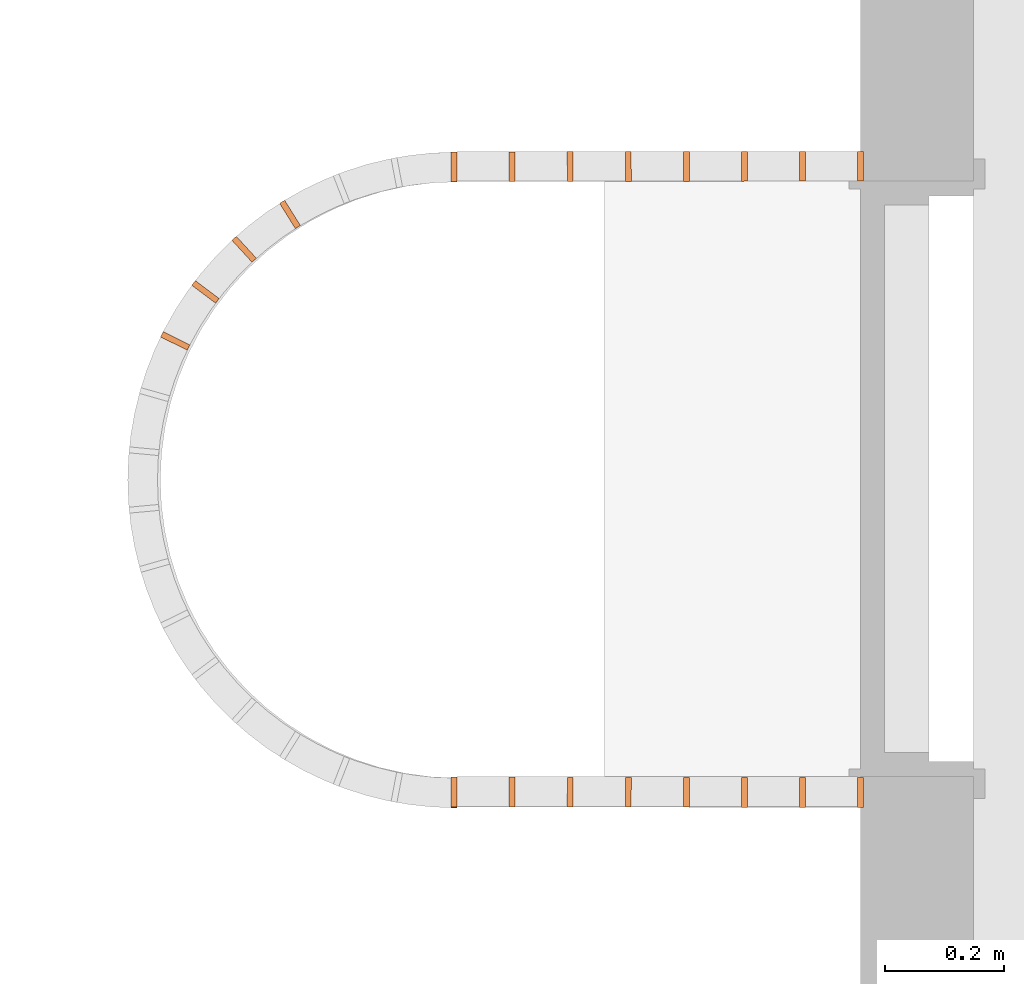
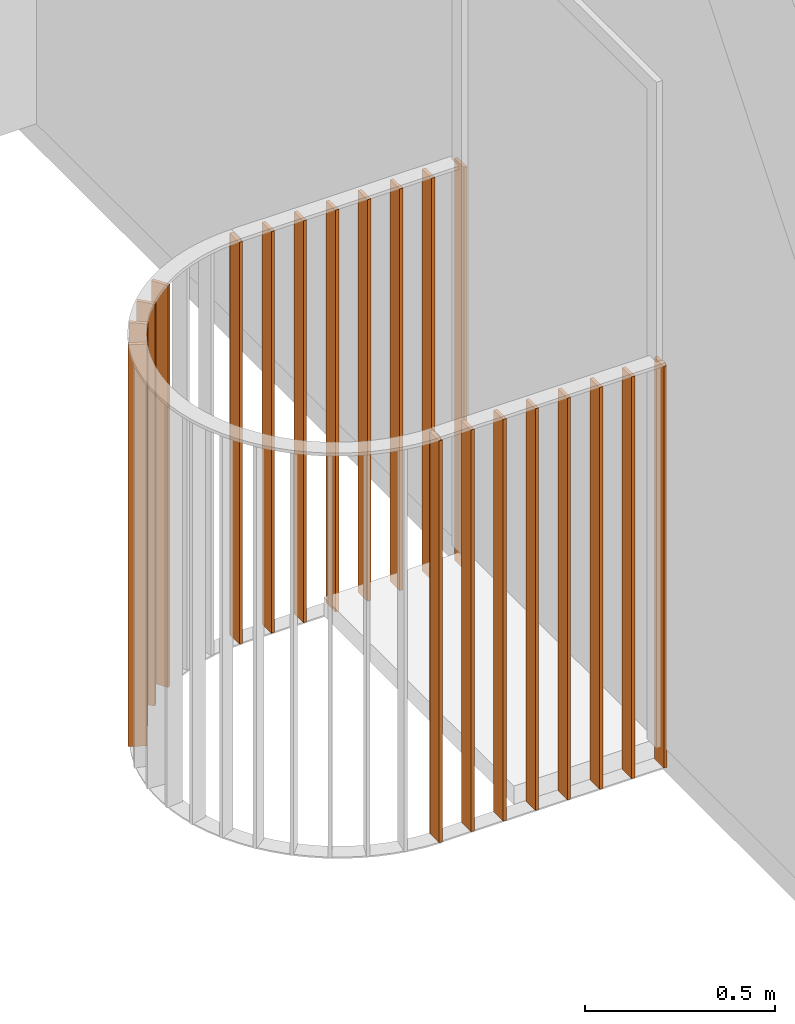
# One storey, part 74 of 100: 22 proxies, 3 elements without a shape of their own.
"""IFC2X3 building model written with IfcOpenShell, lengths in millimetres."""

from ifc_helpers import new_model, entity, si_unit, converted_unit, derived_unit, money_unit, direction, frame, origin_with_axes, place, context, subcontext, project, spatial, faceted_brep, source, transform, mapped, material, type_object, element, aggregate, save


model = new_model("IFC2X3")

# Units and contexts
model_context = context("Model", 3, precision=0.01, world=origin_with_axes(), true_north=direction((0.0, 1.0)))
body_context = subcontext(model_context, "Body", "Model", "MODEL_VIEW")
ifc_project = project(units=[si_unit("LENGTHUNIT", "METRE", prefix="MILLI"), si_unit("AREAUNIT", "SQUARE_METRE"), si_unit("VOLUMEUNIT", "CUBIC_METRE"), converted_unit("PLANEANGLEUNIT", "DEGREE", entity("IfcPlaneAngleMeasure", 0.0174532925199), si_unit("PLANEANGLEUNIT", "RADIAN"), dimensions=[0, 0, 0, 0, 0, 0, 0]), si_unit("SOLIDANGLEUNIT", "STERADIAN"), money_unit("EUR"), converted_unit("TIMEUNIT", "Year", entity("IfcTimeMeasure", 31556926.0), si_unit("TIMEUNIT", "SECOND"), dimensions=[0, 0, 1, 0, 0, 0, 0]), si_unit("MASSUNIT", "GRAM", prefix="KILO"), si_unit("THERMODYNAMICTEMPERATUREUNIT", "DEGREE_CELSIUS"), si_unit("LUMINOUSINTENSITYUNIT", "LUMEN"), si_unit("ENERGYUNIT", "JOULE", prefix="MEGA"), derived_unit("THERMALCONDUCTANCEUNIT", [(si_unit("POWERUNIT", "WATT"), 1), (si_unit("LENGTHUNIT", "METRE"), -1), (si_unit("THERMODYNAMICTEMPERATUREUNIT", "KELVIN"), -1)]), derived_unit("SPECIFICHEATCAPACITYUNIT", [(si_unit("ENERGYUNIT", "JOULE"), 1), (si_unit("MASSUNIT", "GRAM", prefix="KILO"), -1), (si_unit("THERMODYNAMICTEMPERATUREUNIT", "KELVIN"), -1)]), derived_unit("MASSDENSITYUNIT", [(si_unit("MASSUNIT", "GRAM", prefix="KILO"), 1), (si_unit("VOLUMEUNIT", "CUBIC_METRE"), -1)])], contexts=[model_context])

# Site, building, storey
site_placement = place(None, origin_with_axes())
site = spatial("IfcSite", under=ifc_project, at=site_placement, Name="Politse- ja Piirivalveameti ning Päästeameti ühishoone", CompositionType="ELEMENT")
building_placement = place(site_placement, origin_with_axes())
building = spatial("IfcBuilding", under=site, at=building_placement, Name="Politse- ja Piirivalveameti ning Päästeameti ühishoone", CompositionType="ELEMENT")
storey_placement = place(building_placement, frame((0.0, 0.0, 3800.0), z_axis=(0.0, 0.0, 1.0), x_axis=(1.0, 0.0, 0.0)))
storey = spatial("IfcBuildingStorey", under=building, at=storey_placement, Name="Teine korrus", CompositionType="ELEMENT", Elevation=3800.0)

# Railing, proxies
railing_type = type_object("IfcRailingType", Name="Railing Type", PredefinedType="NOTDEFINED")
railing_1_placement = place(storey_placement, frame((60714.0159923, 9501.12856913, -60.5112732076), z_axis=(0.0, 0.0, 1.0), x_axis=(0.0, 1.0, 0.0)))
railing_1 = element("IfcRailing", 1, at=railing_1_placement, inside=storey, type_object=railing_type, Name="PIIRE 13", PredefinedType="NOTDEFINED")
ifc_material = material(Name="Teras - Konstruktsioon")
building_element_proxy_type = type_object("IfcBuildingElementProxyType", Name="IfcBuildingElementProxy", PredefinedType="NOTDEFINED")
shared_shape_1 = source(origin_with_axes(), body_context, "Body", "Brep", [
    faceted_brep([(25.0, 5.0, 0.0), (-25.0, 5.0, 0.0), (-25.0, 4.99999999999, 1290.00001255), (25.0, 4.99999999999, 1290.00001255), (25.0, -5.0, 0.0), (-25.0, -5.0, 0.0), (-25.0, -5.00000000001, 1290.00001255), (25.0, -5.00000000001, 1290.00001255)], [[[0, 1, 2, 3]], [[0, 4, 5, 1]], [[1, 5, 6, 2]], [[3, 2, 6, 7]], [[4, 0, 3, 7]], [[5, 4, 7, 6]]]),
])
proxy_1_placement = place(railing_1_placement, frame((946.461899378, 1701.42527344, -1.25516996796e-05), z_axis=(0.0, 0.0, 1.0), x_axis=(0.0, -1.0, 0.0)))
proxy_1 = element("IfcBuildingElementProxy", 2, at=proxy_1_placement, type_object=building_element_proxy_type, material=ifc_material, Name="BALUSTER - 001", context=body_context, shape_type="MappedRepresentation", body=[
    mapped(shared_shape_1, transform((0.0, 0.0, 0.0), x_axis=(0.52893749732, -0.848660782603, 0.0), y_axis=(0.848660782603, 0.52893749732, 0.0), z_axis=(0.0, 0.0, 1.0))),
])
shared_shape_2 = source(origin_with_axes(), body_context, "Body", "Brep", [
    faceted_brep([(25.0, 5.0, 0.0), (-25.0, 5.0, 0.0), (-25.0, 4.99999999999, 1290.00001255), (25.0, 4.99999999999, 1290.00001255), (25.0, -5.0, 0.0), (-25.0, -5.0, 0.0), (-25.0, -5.00000000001, 1290.00001255), (25.0, -5.00000000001, 1290.00001255)], [[[0, 1, 2, 3]], [[0, 4, 5, 1]], [[1, 5, 6, 2]], [[3, 2, 6, 7]], [[4, 0, 3, 7]], [[5, 4, 7, 6]]]),
])
proxy_2_placement = place(railing_1_placement, frame((887.984645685, 1778.43146135, -1.25516996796e-05), z_axis=(0.0, 0.0, 1.0), x_axis=(0.0, -1.0, 0.0)))
proxy_2 = element("IfcBuildingElementProxy", 3, at=proxy_2_placement, type_object=building_element_proxy_type, material=ifc_material, Name="BALUSTER - 001", context=body_context, shape_type="MappedRepresentation", body=[
    mapped(shared_shape_2, transform((0.0, 0.0, 0.0), x_axis=(0.675477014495, -0.737381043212, 0.0), y_axis=(0.737381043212, 0.675477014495, 0.0), z_axis=(0.0, 0.0, 1.0))),
])

railing_2_placement = place(storey_placement, frame((61396.303056, 10503.6272553, -60.5112710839), z_axis=(0.0, 0.0, 1.0), x_axis=(0.0, 1.0, 0.0)))
railing_2 = element("IfcRailing", 4, at=railing_2_placement, inside=storey, type_object=railing_type, Name="PIIRE 11", PredefinedType="NOTDEFINED")
shared_shape_3 = source(origin_with_axes(), body_context, "Body", "Brep", [
    faceted_brep([(25.0, 5.0, 0.0), (-25.0, 5.0, 0.0), (-25.0, 4.99999999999, 1290.0), (25.0, 4.99999999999, 1290.0), (25.0, -5.0, 0.0), (-25.0, -5.0, 0.0), (-25.0, -5.00000000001, 1290.0), (25.0, -5.00000000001, 1290.0)], [[[0, 1, 2, 3]], [[0, 4, 5, 1]], [[1, 5, 6, 2]], [[3, 2, 6, 7]], [[4, 0, 3, 7]], [[5, 4, 7, 6]]]),
])
proxy_3_placement = place(railing_2_placement, frame((24.9999739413, 1425.78724043, 0.0), z_axis=(0.0, 0.0, 1.0), x_axis=(0.0, -1.0, 0.0)))
proxy_3 = element("IfcBuildingElementProxy", 5, at=proxy_3_placement, type_object=building_element_proxy_type, material=ifc_material, Name="PIIRDE POST - 001", context=body_context, shape_type="MappedRepresentation", body=[
    mapped(shared_shape_3, transform((0.0, 0.0, 0.0), x_axis=(-0.00144384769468, 0.999998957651, 0.0), y_axis=(-0.999998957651, -0.00144384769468, 0.0), z_axis=(0.0, 0.0, 1.0))),
])
proxy_4_placement = place(railing_2_placement, frame((24.0148543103, 2108.0743042, 0.0), z_axis=(0.0, 0.0, 1.0), x_axis=(0.0, -1.0, 0.0)))
proxy_4 = element("IfcBuildingElementProxy", 6, at=proxy_4_placement, type_object=building_element_proxy_type, material=ifc_material, Name="PIIRDE POST - 001", context=body_context, shape_type="MappedRepresentation", body=[
    mapped(shared_shape_3, transform((0.0, 0.0, 0.0), x_axis=(-0.00144384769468, 0.999998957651, 0.0), y_axis=(-0.999998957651, -0.00144384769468, 0.0), z_axis=(0.0, 0.0, 1.0))),
])

railing_3_placement = place(storey_placement, frame((61396.303056, 9501.65701605, -60.5112732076), z_axis=(0.0, 0.0, 1.0), x_axis=(0.0, 1.0, 0.0)))
railing_3 = element("IfcRailing", 7, at=railing_3_placement, inside=storey, type_object=railing_type, Name="PIIRE 12", PredefinedType="NOTDEFINED")
proxy_5_placement = place(railing_3_placement, frame((-24.9999739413, 1425.78724043, 0.0), z_axis=(0.0, 0.0, 1.0), x_axis=(0.0, -1.0, 0.0)))
proxy_5 = element("IfcBuildingElementProxy", 8, at=proxy_5_placement, type_object=building_element_proxy_type, material=ifc_material, Name="PIIRDE POST - 001", context=body_context, shape_type="MappedRepresentation", body=[
    mapped(shared_shape_3, transform((0.0, 0.0, 0.0), x_axis=(0.00144384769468, 0.999998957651, 0.0), y_axis=(-0.999998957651, 0.00144384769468, 0.0), z_axis=(0.0, 0.0, 1.0))),
])
proxy_6_placement = place(railing_3_placement, frame((-24.0148543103, 2108.0743042, 0.0), z_axis=(0.0, 0.0, 1.0), x_axis=(0.0, -1.0, 0.0)))
proxy_6 = element("IfcBuildingElementProxy", 9, at=proxy_6_placement, type_object=building_element_proxy_type, material=ifc_material, Name="PIIRDE POST - 001", context=body_context, shape_type="MappedRepresentation", body=[
    mapped(shared_shape_3, transform((0.0, 0.0, 0.0), x_axis=(0.00144384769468, 0.999998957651, 0.0), y_axis=(-0.999998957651, 0.00144384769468, 0.0), z_axis=(0.0, 0.0, 1.0))),
])

# Proxy
proxy_7_placement = place(railing_1_placement, frame((-24.9997402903, 1425.86509781, 0.0), z_axis=(0.0, 0.0, 1.0), x_axis=(0.0, -1.0, 0.0)))
proxy_7 = element("IfcBuildingElementProxy", 10, at=proxy_7_placement, type_object=building_element_proxy_type, material=ifc_material, Name="PIIRDE POST - 001", context=body_context, shape_type="MappedRepresentation", body=[
    mapped(shared_shape_3, transform((0.0, 0.0, 0.0), x_axis=(0.00455814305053, 0.999989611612, 0.0), y_axis=(-0.999989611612, 0.00455814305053, 0.0), z_axis=(0.0, 0.0, 1.0))),
])

proxy_8_placement = place(railing_1_placement, frame((1025.98485992, 1425.86509781, 0.0), z_axis=(0.0, 0.0, 1.0), x_axis=(0.0, -1.0, 0.0)))
proxy_8 = element("IfcBuildingElementProxy", 11, at=proxy_8_placement, type_object=building_element_proxy_type, material=ifc_material, Name="PIIRDE POST - 001", context=body_context, shape_type="MappedRepresentation", body=[
    mapped(shared_shape_3, transform((0.0, 0.0, 0.0), x_axis=(0.00455814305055, -0.999989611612, 0.0), y_axis=(0.999989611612, 0.00455814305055, 0.0), z_axis=(0.0, 0.0, 1.0))),
])

shared_shape_4 = source(origin_with_axes(), body_context, "Body", "Brep", [
    faceted_brep([(25.0, 5.0, 0.0), (-25.0, 5.0, 0.0), (-25.0, 4.99999999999, 1290.00001255), (25.0, 4.99999999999, 1290.00001255), (25.0, -5.0, 0.0), (-25.0, -5.0, 0.0), (-25.0, -5.00000000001, 1290.00001255), (25.0, -5.00000000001, 1290.00001255)], [[[0, 1, 2, 3]], [[0, 4, 5, 1]], [[1, 5, 6, 2]], [[3, 2, 6, 7]], [[4, 0, 3, 7]], [[5, 4, 7, 6]]]),
])
proxy_9_placement = place(railing_2_placement, frame((24.8592425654, 1523.25682096, -1.25517001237e-05), z_axis=(0.0, 0.0, 1.0), x_axis=(0.0, -1.0, 0.0)))
proxy_9 = element("IfcBuildingElementProxy", 12, at=proxy_9_placement, type_object=building_element_proxy_type, material=ifc_material, Name="BALUSTER - 001", context=body_context, shape_type="MappedRepresentation", body=[
    mapped(shared_shape_4, transform((0.0, 0.0, 0.0), x_axis=(-0.00144384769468, 0.999998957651, 0.0), y_axis=(-0.999998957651, -0.00144384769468, 0.0), z_axis=(0.0, 0.0, 1.0))),
])

proxy_10_placement = place(railing_2_placement, frame((24.7185111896, 1620.7264015, -1.25517001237e-05), z_axis=(0.0, 0.0, 1.0), x_axis=(0.0, -1.0, 0.0)))
proxy_10 = element("IfcBuildingElementProxy", 13, at=proxy_10_placement, type_object=building_element_proxy_type, material=ifc_material, Name="BALUSTER - 001", context=body_context, shape_type="MappedRepresentation", body=[
    mapped(shared_shape_4, transform((0.0, 0.0, 0.0), x_axis=(-0.00144384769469, 0.999998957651, 0.0), y_axis=(-0.999998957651, -0.00144384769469, 0.0), z_axis=(0.0, 0.0, 1.0))),
])

proxy_11_placement = place(railing_2_placement, frame((24.5777798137, 1718.19598204, -1.25517001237e-05), z_axis=(0.0, 0.0, 1.0), x_axis=(0.0, -1.0, 0.0)))
proxy_11 = element("IfcBuildingElementProxy", 14, at=proxy_11_placement, type_object=building_element_proxy_type, material=ifc_material, Name="BALUSTER - 001", context=body_context, shape_type="MappedRepresentation", body=[
    mapped(shared_shape_4, transform((0.0, 0.0, 0.0), x_axis=(-0.00144384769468, 0.999998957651, 0.0), y_axis=(-0.999998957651, -0.00144384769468, 0.0), z_axis=(0.0, 0.0, 1.0))),
])

proxy_12_placement = place(railing_2_placement, frame((24.4370484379, 1815.66556258, -1.25517001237e-05), z_axis=(0.0, 0.0, 1.0), x_axis=(0.0, -1.0, 0.0)))
proxy_12 = element("IfcBuildingElementProxy", 15, at=proxy_12_placement, type_object=building_element_proxy_type, material=ifc_material, Name="BALUSTER - 001", context=body_context, shape_type="MappedRepresentation", body=[
    mapped(shared_shape_4, transform((0.0, 0.0, 0.0), x_axis=(-0.00144384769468, 0.999998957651, 0.0), y_axis=(-0.999998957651, -0.00144384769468, 0.0), z_axis=(0.0, 0.0, 1.0))),
])

proxy_13_placement = place(railing_2_placement, frame((24.296317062, 1913.13514312, -1.25517001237e-05), z_axis=(0.0, 0.0, 1.0), x_axis=(0.0, -1.0, 0.0)))
proxy_13 = element("IfcBuildingElementProxy", 16, at=proxy_13_placement, type_object=building_element_proxy_type, material=ifc_material, Name="BALUSTER - 001", context=body_context, shape_type="MappedRepresentation", body=[
    mapped(shared_shape_4, transform((0.0, 0.0, 0.0), x_axis=(-0.00144384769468, 0.999998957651, 0.0), y_axis=(-0.999998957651, -0.00144384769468, 0.0), z_axis=(0.0, 0.0, 1.0))),
])

proxy_14_placement = place(railing_2_placement, frame((24.1555856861, 2010.60472366, -1.25517001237e-05), z_axis=(0.0, 0.0, 1.0), x_axis=(0.0, -1.0, 0.0)))
proxy_14 = element("IfcBuildingElementProxy", 17, at=proxy_14_placement, type_object=building_element_proxy_type, material=ifc_material, Name="BALUSTER - 001", context=body_context, shape_type="MappedRepresentation", body=[
    mapped(shared_shape_4, transform((0.0, 0.0, 0.0), x_axis=(-0.00144384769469, 0.999998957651, 0.0), y_axis=(-0.999998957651, -0.00144384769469, 0.0), z_axis=(0.0, 0.0, 1.0))),
])

aggregate(railing_2, [proxy_3, proxy_4, proxy_9, proxy_10, proxy_11, proxy_12, proxy_13, proxy_14])

proxy_15_placement = place(railing_3_placement, frame((-24.8592425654, 1523.25682096, -1.25516996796e-05), z_axis=(0.0, 0.0, 1.0), x_axis=(0.0, -1.0, 0.0)))
proxy_15 = element("IfcBuildingElementProxy", 18, at=proxy_15_placement, type_object=building_element_proxy_type, material=ifc_material, Name="BALUSTER - 001", context=body_context, shape_type="MappedRepresentation", body=[
    mapped(shared_shape_4, transform((0.0, 0.0, 0.0), x_axis=(0.00144384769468, 0.999998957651, 0.0), y_axis=(-0.999998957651, 0.00144384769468, 0.0), z_axis=(0.0, 0.0, 1.0))),
])

proxy_16_placement = place(railing_3_placement, frame((-24.7185111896, 1620.7264015, -1.25516996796e-05), z_axis=(0.0, 0.0, 1.0), x_axis=(0.0, -1.0, 0.0)))
proxy_16 = element("IfcBuildingElementProxy", 19, at=proxy_16_placement, type_object=building_element_proxy_type, material=ifc_material, Name="BALUSTER - 001", context=body_context, shape_type="MappedRepresentation", body=[
    mapped(shared_shape_4, transform((0.0, 0.0, 0.0), x_axis=(0.00144384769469, 0.999998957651, 0.0), y_axis=(-0.999998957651, 0.00144384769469, 0.0), z_axis=(0.0, 0.0, 1.0))),
])

proxy_17_placement = place(railing_3_placement, frame((-24.5777798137, 1718.19598204, -1.25516996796e-05), z_axis=(0.0, 0.0, 1.0), x_axis=(0.0, -1.0, 0.0)))
proxy_17 = element("IfcBuildingElementProxy", 20, at=proxy_17_placement, type_object=building_element_proxy_type, material=ifc_material, Name="BALUSTER - 001", context=body_context, shape_type="MappedRepresentation", body=[
    mapped(shared_shape_4, transform((0.0, 0.0, 0.0), x_axis=(0.00144384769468, 0.999998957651, 0.0), y_axis=(-0.999998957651, 0.00144384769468, 0.0), z_axis=(0.0, 0.0, 1.0))),
])

proxy_18_placement = place(railing_3_placement, frame((-24.4370484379, 1815.66556258, -1.25516996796e-05), z_axis=(0.0, 0.0, 1.0), x_axis=(0.0, -1.0, 0.0)))
proxy_18 = element("IfcBuildingElementProxy", 21, at=proxy_18_placement, type_object=building_element_proxy_type, material=ifc_material, Name="BALUSTER - 001", context=body_context, shape_type="MappedRepresentation", body=[
    mapped(shared_shape_4, transform((0.0, 0.0, 0.0), x_axis=(0.00144384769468, 0.999998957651, 0.0), y_axis=(-0.999998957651, 0.00144384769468, 0.0), z_axis=(0.0, 0.0, 1.0))),
])

proxy_19_placement = place(railing_3_placement, frame((-24.296317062, 1913.13514312, -1.25516996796e-05), z_axis=(0.0, 0.0, 1.0), x_axis=(0.0, -1.0, 0.0)))
proxy_19 = element("IfcBuildingElementProxy", 22, at=proxy_19_placement, type_object=building_element_proxy_type, material=ifc_material, Name="BALUSTER - 001", context=body_context, shape_type="MappedRepresentation", body=[
    mapped(shared_shape_4, transform((0.0, 0.0, 0.0), x_axis=(0.00144384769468, 0.999998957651, 0.0), y_axis=(-0.999998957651, 0.00144384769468, 0.0), z_axis=(0.0, 0.0, 1.0))),
])

proxy_20_placement = place(railing_3_placement, frame((-24.1555856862, 2010.60472366, -1.25516996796e-05), z_axis=(0.0, 0.0, 1.0), x_axis=(0.0, -1.0, 0.0)))
proxy_20 = element("IfcBuildingElementProxy", 23, at=proxy_20_placement, type_object=building_element_proxy_type, material=ifc_material, Name="BALUSTER - 001", context=body_context, shape_type="MappedRepresentation", body=[
    mapped(shared_shape_4, transform((0.0, 0.0, 0.0), x_axis=(0.00144384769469, 0.999998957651, 0.0), y_axis=(-0.999998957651, 0.00144384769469, 0.0), z_axis=(0.0, 0.0, 1.0))),
])

aggregate(railing_3, [proxy_5, proxy_6, proxy_15, proxy_16, proxy_17, proxy_18, proxy_19, proxy_20])

shared_shape_5 = source(origin_with_axes(), body_context, "Body", "Brep", [
    faceted_brep([(25.0, 5.0, 0.0), (-25.0, 5.0, 0.0), (-25.0, 5.0, 1290.00001255), (25.0, 5.0, 1290.00001255), (25.0, -5.0, 0.0), (-25.0, -5.0, 0.0), (-25.0, -5.0, 1290.00001255), (25.0, -5.0, 1290.00001255)], [[[0, 1, 2, 3]], [[0, 4, 5, 1]], [[1, 5, 6, 2]], [[3, 2, 6, 7]], [[4, 0, 3, 7]], [[5, 4, 7, 6]]]),
])
proxy_21_placement = place(railing_1_placement, frame((734.096213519, 1894.1897077, -1.25516996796e-05), z_axis=(0.0, 0.0, 1.0), x_axis=(0.0, -1.0, 0.0)))
proxy_21 = element("IfcBuildingElementProxy", 24, at=proxy_21_placement, type_object=building_element_proxy_type, material=ifc_material, Name="BALUSTER - 001", context=body_context, shape_type="MappedRepresentation", body=[
    mapped(shared_shape_5, transform((0.0, 0.0, 0.0), x_axis=(0.895760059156, -0.444537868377, 0.0), y_axis=(0.444537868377, 0.895760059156, 0.0), z_axis=(0.0, 0.0, 1.0))),
])

proxy_22_placement = place(railing_1_placement, frame((816.388068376, 1843.41970869, -1.25516996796e-05), z_axis=(0.0, 0.0, 1.0), x_axis=(0.0, -1.0, 0.0)))
proxy_22 = element("IfcBuildingElementProxy", 25, at=proxy_22_placement, type_object=building_element_proxy_type, material=ifc_material, Name="BALUSTER - 001", context=body_context, shape_type="MappedRepresentation", body=[
    mapped(shared_shape_5, transform((0.0, 0.0, 0.0), x_axis=(0.799146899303, -0.601135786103, 0.0), y_axis=(0.601135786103, 0.799146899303, 0.0), z_axis=(0.0, 0.0, 1.0))),
])

aggregate(railing_1, [proxy_7, proxy_8, proxy_21, proxy_22, proxy_2, proxy_1])

save(model, "model.ifc")
